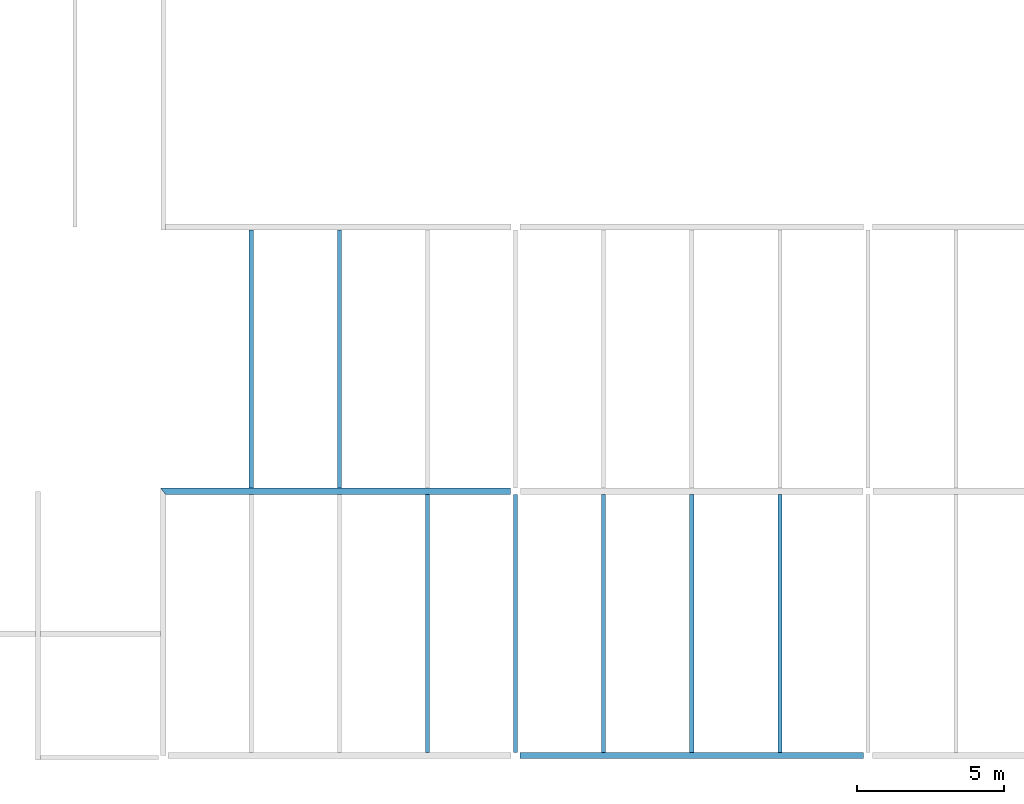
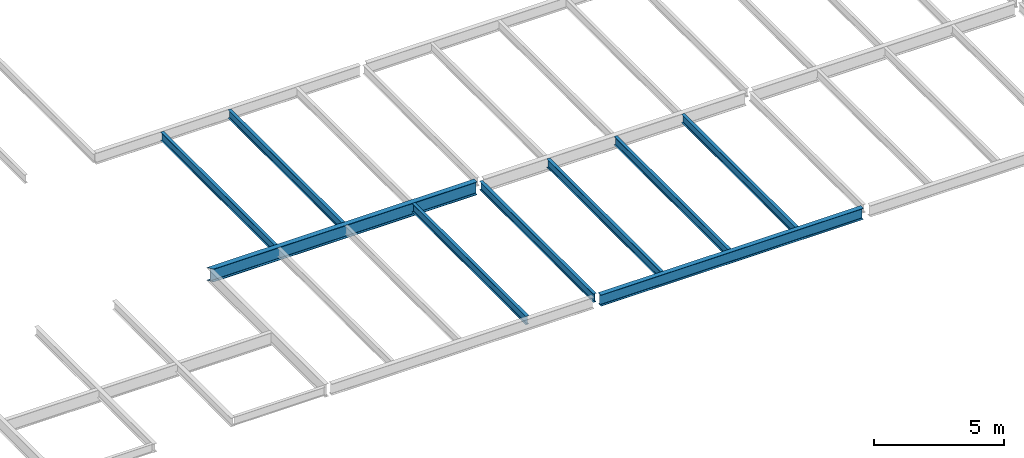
# One storey, part 11 of 21: 9 beams.
"""IFC2X3 building model written with IfcOpenShell, lengths in millimetres."""

from ifc_helpers import new_model, si_unit, origin, place, context, project, spatial, faceted_brep, material, element, save


model = new_model("IFC2X3")

# Units and contexts
context_of_model = context(None, 3, precision=1e-05, world=origin())
ifc_project = project(units=[si_unit("LENGTHUNIT", "METRE", prefix="MILLI")], contexts=[context_of_model])

# Building, storey
building = spatial("IfcBuilding", under=ifc_project, Name="Building", CompositionType="ELEMENT")
storey = spatial("IfcBuildingStorey", under=building, Name="FL3-FRM", CompositionType="ELEMENT")

# Beams
ifc_material_1 = material(Name="A992")
beam_1_placement = place(None, origin())
element("IfcBeam", 1, at=beam_1_placement, inside=storey, material=ifc_material_1, Name="B448", context=context_of_model, shape_type="Brep", body=[
    faceted_brep([(27070.0, 9104.5, 8474.0), (26930.0, 9104.5, 8474.0), (26930.0, 17885.5, 8474.0), (27070.0, 17885.5, 8474.0), (26930.0, 9104.5, 8482.8), (26930.0, 17885.5, 8482.8), (26986.6, 9104.5, 8482.8), (26986.6, 17885.5, 8482.8), (26989.2, 9104.5, 8483.15), (26989.2, 17885.5, 8483.15), (26991.7, 9104.5, 8484.17), (26991.7, 17885.5, 8484.17), (26993.8, 9104.5, 8485.79), (26993.8, 17885.5, 8485.79), (26995.4, 9104.5, 8487.9), (26995.4, 17885.5, 8487.9), (26996.5, 9104.5, 8490.36), (26996.5, 17885.5, 8490.36), (26996.8, 9104.5, 8493.0), (26996.8, 17885.5, 8493.0), (26996.8, 9104.5, 8854.0), (26996.8, 17885.5, 8854.0), (26996.5, 9104.5, 8856.64), (26996.5, 17885.5, 8856.64), (26995.4, 9104.5, 8859.1), (26995.4, 17885.5, 8859.1), (26993.8, 9104.5, 8861.21), (26993.8, 17885.5, 8861.21), (26991.7, 9104.5, 8862.83), (26991.7, 17885.5, 8862.83), (26989.2, 9104.5, 8863.85), (26989.2, 17885.5, 8863.85), (26986.6, 9104.5, 8864.2), (26986.6, 17885.5, 8864.2), (26930.0, 9104.5, 8864.2), (26930.0, 17885.5, 8864.2), (26930.0, 9104.5, 8873.0), (26930.0, 17885.5, 8873.0), (27070.0, 9104.5, 8873.0), (27070.0, 17885.5, 8873.0), (27070.0, 9104.5, 8864.2), (27070.0, 17885.5, 8864.2), (27013.4, 9104.5, 8864.2), (27013.4, 17885.5, 8864.2), (27010.8, 9104.5, 8863.85), (27010.8, 17885.5, 8863.85), (27008.3, 9104.5, 8862.83), (27008.3, 17885.5, 8862.83), (27006.2, 9104.5, 8861.21), (27006.2, 17885.5, 8861.21), (27004.6, 9104.5, 8859.1), (27004.6, 17885.5, 8859.1), (27003.5, 9104.5, 8856.64), (27003.5, 17885.5, 8856.64), (27003.2, 9104.5, 8854.0), (27003.2, 17885.5, 8854.0), (27003.2, 9104.5, 8493.0), (27003.2, 17885.5, 8493.0), (27003.5, 9104.5, 8490.36), (27003.5, 17885.5, 8490.36), (27004.6, 9104.5, 8487.9), (27004.6, 17885.5, 8487.9), (27006.2, 9104.5, 8485.79), (27006.2, 17885.5, 8485.79), (27008.3, 9104.5, 8484.17), (27008.3, 17885.5, 8484.17), (27010.8, 9104.5, 8483.15), (27010.8, 17885.5, 8483.15), (27013.4, 9104.5, 8482.8), (27013.4, 17885.5, 8482.8), (27070.0, 9104.5, 8482.8), (27070.0, 17885.5, 8482.8)], [[[0, 1, 2, 3]], [[1, 4, 5, 2]], [[4, 6, 7, 5]], [[6, 8, 9, 7]], [[8, 10, 11, 9]], [[10, 12, 13, 11]], [[12, 14, 15, 13]], [[14, 16, 17, 15]], [[16, 18, 19, 17]], [[18, 20, 21, 19]], [[20, 22, 23, 21]], [[22, 24, 25, 23]], [[24, 26, 27, 25]], [[26, 28, 29, 27]], [[28, 30, 31, 29]], [[30, 32, 33, 31]], [[32, 34, 35, 33]], [[34, 36, 37, 35]], [[36, 38, 39, 37]], [[38, 40, 41, 39]], [[40, 42, 43, 41]], [[42, 44, 45, 43]], [[44, 46, 47, 45]], [[46, 48, 49, 47]], [[48, 50, 51, 49]], [[50, 52, 53, 51]], [[52, 54, 55, 53]], [[54, 56, 57, 55]], [[56, 58, 59, 57]], [[58, 60, 61, 59]], [[60, 62, 63, 61]], [[62, 64, 65, 63]], [[64, 66, 67, 65]], [[66, 68, 69, 67]], [[68, 70, 71, 69]], [[70, 0, 3, 71]], [[0, 70, 68, 66, 64, 62, 60, 58, 56, 54, 52, 50, 48, 46, 44, 42, 40, 38, 36, 34, 32, 30, 28, 26, 24, 22, 20, 18, 16, 14, 12, 10, 8, 6, 4, 1]], [[3, 2, 5, 7, 9, 11, 13, 15, 17, 19, 21, 23, 25, 27, 29, 31, 33, 35, 37, 39, 41, 43, 45, 47, 49, 51, 53, 55, 57, 59, 61, 63, 65, 67, 69, 71]]]),
])
ifc_material_2 = material(Name="A992")
beam_2_placement = place(None, origin())
element("IfcBeam", 2, at=beam_2_placement, inside=storey, material=ifc_material_2, Name="B449", context=context_of_model, shape_type="Brep", body=[
    faceted_brep([(30070.0, 9104.5, 8474.0), (29930.0, 9104.5, 8474.0), (29930.0, 17885.5, 8474.0), (30070.0, 17885.5, 8474.0), (29930.0, 9104.5, 8482.8), (29930.0, 17885.5, 8482.8), (29986.6, 9104.5, 8482.8), (29986.6, 17885.5, 8482.8), (29989.2, 9104.5, 8483.15), (29989.2, 17885.5, 8483.15), (29991.7, 9104.5, 8484.17), (29991.7, 17885.5, 8484.17), (29993.8, 9104.5, 8485.79), (29993.8, 17885.5, 8485.79), (29995.4, 9104.5, 8487.9), (29995.4, 17885.5, 8487.9), (29996.5, 9104.5, 8490.36), (29996.5, 17885.5, 8490.36), (29996.8, 9104.5, 8493.0), (29996.8, 17885.5, 8493.0), (29996.8, 9104.5, 8854.0), (29996.8, 17885.5, 8854.0), (29996.5, 9104.5, 8856.64), (29996.5, 17885.5, 8856.64), (29995.4, 9104.5, 8859.1), (29995.4, 17885.5, 8859.1), (29993.8, 9104.5, 8861.21), (29993.8, 17885.5, 8861.21), (29991.7, 9104.5, 8862.83), (29991.7, 17885.5, 8862.83), (29989.2, 9104.5, 8863.85), (29989.2, 17885.5, 8863.85), (29986.6, 9104.5, 8864.2), (29986.6, 17885.5, 8864.2), (29930.0, 9104.5, 8864.2), (29930.0, 17885.5, 8864.2), (29930.0, 9104.5, 8873.0), (29930.0, 17885.5, 8873.0), (30070.0, 9104.5, 8873.0), (30070.0, 17885.5, 8873.0), (30070.0, 9104.5, 8864.2), (30070.0, 17885.5, 8864.2), (30013.4, 9104.5, 8864.2), (30013.4, 17885.5, 8864.2), (30010.8, 9104.5, 8863.85), (30010.8, 17885.5, 8863.85), (30008.3, 9104.5, 8862.83), (30008.3, 17885.5, 8862.83), (30006.2, 9104.5, 8861.21), (30006.2, 17885.5, 8861.21), (30004.6, 9104.5, 8859.1), (30004.6, 17885.5, 8859.1), (30003.5, 9104.5, 8856.64), (30003.5, 17885.5, 8856.64), (30003.2, 9104.5, 8854.0), (30003.2, 17885.5, 8854.0), (30003.2, 9104.5, 8493.0), (30003.2, 17885.5, 8493.0), (30003.5, 9104.5, 8490.36), (30003.5, 17885.5, 8490.36), (30004.6, 9104.5, 8487.9), (30004.6, 17885.5, 8487.9), (30006.2, 9104.5, 8485.79), (30006.2, 17885.5, 8485.79), (30008.3, 9104.5, 8484.17), (30008.3, 17885.5, 8484.17), (30010.8, 9104.5, 8483.15), (30010.8, 17885.5, 8483.15), (30013.4, 9104.5, 8482.8), (30013.4, 17885.5, 8482.8), (30070.0, 9104.5, 8482.8), (30070.0, 17885.5, 8482.8)], [[[0, 1, 2, 3]], [[1, 4, 5, 2]], [[4, 6, 7, 5]], [[6, 8, 9, 7]], [[8, 10, 11, 9]], [[10, 12, 13, 11]], [[12, 14, 15, 13]], [[14, 16, 17, 15]], [[16, 18, 19, 17]], [[18, 20, 21, 19]], [[20, 22, 23, 21]], [[22, 24, 25, 23]], [[24, 26, 27, 25]], [[26, 28, 29, 27]], [[28, 30, 31, 29]], [[30, 32, 33, 31]], [[32, 34, 35, 33]], [[34, 36, 37, 35]], [[36, 38, 39, 37]], [[38, 40, 41, 39]], [[40, 42, 43, 41]], [[42, 44, 45, 43]], [[44, 46, 47, 45]], [[46, 48, 49, 47]], [[48, 50, 51, 49]], [[50, 52, 53, 51]], [[52, 54, 55, 53]], [[54, 56, 57, 55]], [[56, 58, 59, 57]], [[58, 60, 61, 59]], [[60, 62, 63, 61]], [[62, 64, 65, 63]], [[64, 66, 67, 65]], [[66, 68, 69, 67]], [[68, 70, 71, 69]], [[70, 0, 3, 71]], [[0, 70, 68, 66, 64, 62, 60, 58, 56, 54, 52, 50, 48, 46, 44, 42, 40, 38, 36, 34, 32, 30, 28, 26, 24, 22, 20, 18, 16, 14, 12, 10, 8, 6, 4, 1]], [[3, 2, 5, 7, 9, 11, 13, 15, 17, 19, 21, 23, 25, 27, 29, 31, 33, 35, 37, 39, 41, 43, 45, 47, 49, 51, 53, 55, 57, 59, 61, 63, 65, 67, 69, 71]]]),
])
ifc_material_3 = material(Name="A992")
beam_3_placement = place(None, origin())
element("IfcBeam", 3, at=beam_3_placement, inside=storey, material=ifc_material_3, Name="B452", context=context_of_model, shape_type="Brep", body=[
    faceted_brep([(33070.0, 9104.5, 8474.0), (32930.0, 9104.5, 8474.0), (32930.0, 17885.5, 8474.0), (33070.0, 17885.5, 8474.0), (32930.0, 9104.5, 8482.8), (32930.0, 17885.5, 8482.8), (32986.6, 9104.5, 8482.8), (32986.6, 17885.5, 8482.8), (32989.2, 9104.5, 8483.15), (32989.2, 17885.5, 8483.15), (32991.7, 9104.5, 8484.17), (32991.7, 17885.5, 8484.17), (32993.8, 9104.5, 8485.79), (32993.8, 17885.5, 8485.79), (32995.4, 9104.5, 8487.9), (32995.4, 17885.5, 8487.9), (32996.5, 9104.5, 8490.36), (32996.5, 17885.5, 8490.36), (32996.8, 9104.5, 8493.0), (32996.8, 17885.5, 8493.0), (32996.8, 9104.5, 8854.0), (32996.8, 17885.5, 8854.0), (32996.5, 9104.5, 8856.64), (32996.5, 17885.5, 8856.64), (32995.4, 9104.5, 8859.1), (32995.4, 17885.5, 8859.1), (32993.8, 9104.5, 8861.21), (32993.8, 17885.5, 8861.21), (32991.7, 9104.5, 8862.83), (32991.7, 17885.5, 8862.83), (32989.2, 9104.5, 8863.85), (32989.2, 17885.5, 8863.85), (32986.6, 9104.5, 8864.2), (32986.6, 17885.5, 8864.2), (32930.0, 9104.5, 8864.2), (32930.0, 17885.5, 8864.2), (32930.0, 9104.5, 8873.0), (32930.0, 17885.5, 8873.0), (33070.0, 9104.5, 8873.0), (33070.0, 17885.5, 8873.0), (33070.0, 9104.5, 8864.2), (33070.0, 17885.5, 8864.2), (33013.4, 9104.5, 8864.2), (33013.4, 17885.5, 8864.2), (33010.8, 9104.5, 8863.85), (33010.8, 17885.5, 8863.85), (33008.3, 9104.5, 8862.83), (33008.3, 17885.5, 8862.83), (33006.2, 9104.5, 8861.21), (33006.2, 17885.5, 8861.21), (33004.6, 9104.5, 8859.1), (33004.6, 17885.5, 8859.1), (33003.5, 9104.5, 8856.64), (33003.5, 17885.5, 8856.64), (33003.2, 9104.5, 8854.0), (33003.2, 17885.5, 8854.0), (33003.2, 9104.5, 8493.0), (33003.2, 17885.5, 8493.0), (33003.5, 9104.5, 8490.36), (33003.5, 17885.5, 8490.36), (33004.6, 9104.5, 8487.9), (33004.6, 17885.5, 8487.9), (33006.2, 9104.5, 8485.79), (33006.2, 17885.5, 8485.79), (33008.3, 9104.5, 8484.17), (33008.3, 17885.5, 8484.17), (33010.8, 9104.5, 8483.15), (33010.8, 17885.5, 8483.15), (33013.4, 9104.5, 8482.8), (33013.4, 17885.5, 8482.8), (33070.0, 9104.5, 8482.8), (33070.0, 17885.5, 8482.8)], [[[0, 1, 2, 3]], [[1, 4, 5, 2]], [[4, 6, 7, 5]], [[6, 8, 9, 7]], [[8, 10, 11, 9]], [[10, 12, 13, 11]], [[12, 14, 15, 13]], [[14, 16, 17, 15]], [[16, 18, 19, 17]], [[18, 20, 21, 19]], [[20, 22, 23, 21]], [[22, 24, 25, 23]], [[24, 26, 27, 25]], [[26, 28, 29, 27]], [[28, 30, 31, 29]], [[30, 32, 33, 31]], [[32, 34, 35, 33]], [[34, 36, 37, 35]], [[36, 38, 39, 37]], [[38, 40, 41, 39]], [[40, 42, 43, 41]], [[42, 44, 45, 43]], [[44, 46, 47, 45]], [[46, 48, 49, 47]], [[48, 50, 51, 49]], [[50, 52, 53, 51]], [[52, 54, 55, 53]], [[54, 56, 57, 55]], [[56, 58, 59, 57]], [[58, 60, 61, 59]], [[60, 62, 63, 61]], [[62, 64, 65, 63]], [[64, 66, 67, 65]], [[66, 68, 69, 67]], [[68, 70, 71, 69]], [[70, 0, 3, 71]], [[0, 70, 68, 66, 64, 62, 60, 58, 56, 54, 52, 50, 48, 46, 44, 42, 40, 38, 36, 34, 32, 30, 28, 26, 24, 22, 20, 18, 16, 14, 12, 10, 8, 6, 4, 1]], [[3, 2, 5, 7, 9, 11, 13, 15, 17, 19, 21, 23, 25, 27, 29, 31, 33, 35, 37, 39, 41, 43, 45, 47, 49, 51, 53, 55, 57, 59, 61, 63, 65, 67, 69, 71]]]),
])
ifc_material_4 = material(Name="A992")
beam_4_placement = place(None, origin())
element("IfcBeam", 4, at=beam_4_placement, inside=storey, material=ifc_material_4, Name="B453", context=context_of_model, shape_type="Brep", body=[
    faceted_brep([(24070.0, 9104.5, 8474.0), (23930.0, 9104.5, 8474.0), (23930.0, 17885.5, 8474.0), (24070.0, 17885.5, 8474.0), (23930.0, 9104.5, 8482.8), (23930.0, 17885.5, 8482.8), (23986.6, 9104.5, 8482.8), (23986.6, 17885.5, 8482.8), (23989.2, 9104.5, 8483.15), (23989.2, 17885.5, 8483.15), (23991.7, 9104.5, 8484.17), (23991.7, 17885.5, 8484.17), (23993.8, 9104.5, 8485.79), (23993.8, 17885.5, 8485.79), (23995.4, 9104.5, 8487.9), (23995.4, 17885.5, 8487.9), (23996.5, 9104.5, 8490.36), (23996.5, 17885.5, 8490.36), (23996.8, 9104.5, 8493.0), (23996.8, 17885.5, 8493.0), (23996.8, 9104.5, 8854.0), (23996.8, 17885.5, 8854.0), (23996.5, 9104.5, 8856.64), (23996.5, 17885.5, 8856.64), (23995.4, 9104.5, 8859.1), (23995.4, 17885.5, 8859.1), (23993.8, 9104.5, 8861.21), (23993.8, 17885.5, 8861.21), (23991.7, 9104.5, 8862.83), (23991.7, 17885.5, 8862.83), (23989.2, 9104.5, 8863.85), (23989.2, 17885.5, 8863.85), (23986.6, 9104.5, 8864.2), (23986.6, 17885.5, 8864.2), (23930.0, 9104.5, 8864.2), (23930.0, 17885.5, 8864.2), (23930.0, 9104.5, 8873.0), (23930.0, 17885.5, 8873.0), (24070.0, 9104.5, 8873.0), (24070.0, 17885.5, 8873.0), (24070.0, 9104.5, 8864.2), (24070.0, 17885.5, 8864.2), (24013.4, 9104.5, 8864.2), (24013.4, 17885.5, 8864.2), (24010.8, 9104.5, 8863.85), (24010.8, 17885.5, 8863.85), (24008.3, 9104.5, 8862.83), (24008.3, 17885.5, 8862.83), (24006.2, 9104.5, 8861.21), (24006.2, 17885.5, 8861.21), (24004.6, 9104.5, 8859.1), (24004.6, 17885.5, 8859.1), (24003.5, 9104.5, 8856.64), (24003.5, 17885.5, 8856.64), (24003.2, 9104.5, 8854.0), (24003.2, 17885.5, 8854.0), (24003.2, 9104.5, 8493.0), (24003.2, 17885.5, 8493.0), (24003.5, 9104.5, 8490.36), (24003.5, 17885.5, 8490.36), (24004.6, 9104.5, 8487.9), (24004.6, 17885.5, 8487.9), (24006.2, 9104.5, 8485.79), (24006.2, 17885.5, 8485.79), (24008.3, 9104.5, 8484.17), (24008.3, 17885.5, 8484.17), (24010.8, 9104.5, 8483.15), (24010.8, 17885.5, 8483.15), (24013.4, 9104.5, 8482.8), (24013.4, 17885.5, 8482.8), (24070.0, 9104.5, 8482.8), (24070.0, 17885.5, 8482.8)], [[[0, 1, 2, 3]], [[1, 4, 5, 2]], [[4, 6, 7, 5]], [[6, 8, 9, 7]], [[8, 10, 11, 9]], [[10, 12, 13, 11]], [[12, 14, 15, 13]], [[14, 16, 17, 15]], [[16, 18, 19, 17]], [[18, 20, 21, 19]], [[20, 22, 23, 21]], [[22, 24, 25, 23]], [[24, 26, 27, 25]], [[26, 28, 29, 27]], [[28, 30, 31, 29]], [[30, 32, 33, 31]], [[32, 34, 35, 33]], [[34, 36, 37, 35]], [[36, 38, 39, 37]], [[38, 40, 41, 39]], [[40, 42, 43, 41]], [[42, 44, 45, 43]], [[44, 46, 47, 45]], [[46, 48, 49, 47]], [[48, 50, 51, 49]], [[50, 52, 53, 51]], [[52, 54, 55, 53]], [[54, 56, 57, 55]], [[56, 58, 59, 57]], [[58, 60, 61, 59]], [[60, 62, 63, 61]], [[62, 64, 65, 63]], [[64, 66, 67, 65]], [[66, 68, 69, 67]], [[68, 70, 71, 69]], [[70, 0, 3, 71]], [[0, 70, 68, 66, 64, 62, 60, 58, 56, 54, 52, 50, 48, 46, 44, 42, 40, 38, 36, 34, 32, 30, 28, 26, 24, 22, 20, 18, 16, 14, 12, 10, 8, 6, 4, 1]], [[3, 2, 5, 7, 9, 11, 13, 15, 17, 19, 21, 23, 25, 27, 29, 31, 33, 35, 37, 39, 41, 43, 45, 47, 49, 51, 53, 55, 57, 59, 61, 63, 65, 67, 69, 71]]]),
])
ifc_material_5 = material(Name="A992")
beam_5_placement = place(None, origin())
element("IfcBeam", 5, at=beam_5_placement, inside=storey, material=ifc_material_5, Name="Column471", context=context_of_model, shape_type="Brep", body=[
    faceted_brep([(24154.0, 8895.5, 8345.0), (24154.0, 9104.5, 8345.0), (35846.0, 9104.5, 8345.0), (35846.0, 8895.5, 8345.0), (24154.0, 9104.5, 8358.3), (35846.0, 9104.5, 8358.3), (24154.0, 9017.45, 8358.3), (35846.0, 9017.45, 8358.3), (24154.0, 9014.16, 8358.73), (35846.0, 9014.16, 8358.73), (24154.0, 9011.1, 8360.0), (35846.0, 9011.1, 8360.0), (24154.0, 9008.47, 8362.02), (35846.0, 9008.47, 8362.02), (24154.0, 9006.45, 8364.65), (35846.0, 9006.45, 8364.65), (24154.0, 9005.18, 8367.71), (35846.0, 9005.18, 8367.71), (24154.0, 9004.75, 8371.0), (35846.0, 9004.75, 8371.0), (24154.0, 9004.75, 8847.0), (35846.0, 9004.75, 8847.0), (24154.0, 9005.18, 8850.29), (35846.0, 9005.18, 8850.29), (24154.0, 9006.45, 8853.35), (35846.0, 9006.45, 8853.35), (24154.0, 9008.47, 8855.98), (35846.0, 9008.47, 8855.98), (24154.0, 9011.1, 8858.0), (35846.0, 9011.1, 8858.0), (24154.0, 9014.16, 8859.27), (35846.0, 9014.16, 8859.27), (24154.0, 9017.45, 8859.7), (35846.0, 9017.45, 8859.7), (24154.0, 9104.5, 8859.7), (35846.0, 9104.5, 8859.7), (24154.0, 9104.5, 8873.0), (35846.0, 9104.5, 8873.0), (24154.0, 8895.5, 8873.0), (35846.0, 8895.5, 8873.0), (24154.0, 8895.5, 8859.7), (35846.0, 8895.5, 8859.7), (24154.0, 8982.55, 8859.7), (35846.0, 8982.55, 8859.7), (24154.0, 8985.84, 8859.27), (35846.0, 8985.84, 8859.27), (24154.0, 8988.9, 8858.0), (35846.0, 8988.9, 8858.0), (24154.0, 8991.53, 8855.98), (35846.0, 8991.53, 8855.98), (24154.0, 8993.55, 8853.35), (35846.0, 8993.55, 8853.35), (24154.0, 8994.82, 8850.29), (35846.0, 8994.82, 8850.29), (24154.0, 8995.25, 8847.0), (35846.0, 8995.25, 8847.0), (24154.0, 8995.25, 8371.0), (35846.0, 8995.25, 8371.0), (24154.0, 8994.82, 8367.71), (35846.0, 8994.82, 8367.71), (24154.0, 8993.55, 8364.65), (35846.0, 8993.55, 8364.65), (24154.0, 8991.53, 8362.02), (35846.0, 8991.53, 8362.02), (24154.0, 8988.9, 8360.0), (35846.0, 8988.9, 8360.0), (24154.0, 8985.84, 8358.73), (35846.0, 8985.84, 8358.73), (24154.0, 8982.55, 8358.3), (35846.0, 8982.55, 8358.3), (24154.0, 8895.5, 8358.3), (35846.0, 8895.5, 8358.3)], [[[0, 1, 2, 3]], [[1, 4, 5, 2]], [[4, 6, 7, 5]], [[6, 8, 9, 7]], [[8, 10, 11, 9]], [[10, 12, 13, 11]], [[12, 14, 15, 13]], [[14, 16, 17, 15]], [[16, 18, 19, 17]], [[18, 20, 21, 19]], [[20, 22, 23, 21]], [[22, 24, 25, 23]], [[24, 26, 27, 25]], [[26, 28, 29, 27]], [[28, 30, 31, 29]], [[30, 32, 33, 31]], [[32, 34, 35, 33]], [[34, 36, 37, 35]], [[36, 38, 39, 37]], [[38, 40, 41, 39]], [[40, 42, 43, 41]], [[42, 44, 45, 43]], [[44, 46, 47, 45]], [[46, 48, 49, 47]], [[48, 50, 51, 49]], [[50, 52, 53, 51]], [[52, 54, 55, 53]], [[54, 56, 57, 55]], [[56, 58, 59, 57]], [[58, 60, 61, 59]], [[60, 62, 63, 61]], [[62, 64, 65, 63]], [[64, 66, 67, 65]], [[66, 68, 69, 67]], [[68, 70, 71, 69]], [[70, 0, 3, 71]], [[0, 70, 68, 66, 64, 62, 60, 58, 56, 54, 52, 50, 48, 46, 44, 42, 40, 38, 36, 34, 32, 30, 28, 26, 24, 22, 20, 18, 16, 14, 12, 10, 8, 6, 4, 1]], [[3, 2, 5, 7, 9, 11, 13, 15, 17, 19, 21, 23, 25, 27, 29, 31, 33, 35, 37, 39, 41, 43, 45, 47, 49, 51, 53, 55, 57, 59, 61, 63, 65, 67, 69, 71]]]),
])
ifc_material_6 = material(Name="A992")
beam_6_placement = place(None, origin())
element("IfcBeam", 6, at=beam_6_placement, inside=storey, material=ifc_material_6, Name="B456", context=context_of_model, shape_type="Brep", body=[
    faceted_brep([(17930.0, 26895.5, 8474.0), (18070.0, 26895.5, 8474.0), (18070.0, 18114.5, 8474.0), (17930.0, 18114.5, 8474.0), (18070.0, 26895.5, 8482.8), (18070.0, 18114.5, 8482.8), (18013.4, 26895.5, 8482.8), (18013.4, 18114.5, 8482.8), (18010.8, 26895.5, 8483.15), (18010.8, 18114.5, 8483.15), (18008.3, 26895.5, 8484.17), (18008.3, 18114.5, 8484.17), (18006.2, 26895.5, 8485.79), (18006.2, 18114.5, 8485.79), (18004.6, 26895.5, 8487.9), (18004.6, 18114.5, 8487.9), (18003.5, 26895.5, 8490.36), (18003.5, 18114.5, 8490.36), (18003.2, 26895.5, 8493.0), (18003.2, 18114.5, 8493.0), (18003.2, 26895.5, 8854.0), (18003.2, 18114.5, 8854.0), (18003.5, 26895.5, 8856.64), (18003.5, 18114.5, 8856.64), (18004.6, 26895.5, 8859.1), (18004.6, 18114.5, 8859.1), (18006.2, 26895.5, 8861.21), (18006.2, 18114.5, 8861.21), (18008.3, 26895.5, 8862.83), (18008.3, 18114.5, 8862.83), (18010.8, 26895.5, 8863.85), (18010.8, 18114.5, 8863.85), (18013.4, 26895.5, 8864.2), (18013.4, 18114.5, 8864.2), (18070.0, 26895.5, 8864.2), (18070.0, 18114.5, 8864.2), (18070.0, 26895.5, 8873.0), (18070.0, 18114.5, 8873.0), (17930.0, 26895.5, 8873.0), (17930.0, 18114.5, 8873.0), (17930.0, 26895.5, 8864.2), (17930.0, 18114.5, 8864.2), (17986.6, 26895.5, 8864.2), (17986.6, 18114.5, 8864.2), (17989.2, 26895.5, 8863.85), (17989.2, 18114.5, 8863.85), (17991.7, 26895.5, 8862.83), (17991.7, 18114.5, 8862.83), (17993.8, 26895.5, 8861.21), (17993.8, 18114.5, 8861.21), (17995.4, 26895.5, 8859.1), (17995.4, 18114.5, 8859.1), (17996.5, 26895.5, 8856.64), (17996.5, 18114.5, 8856.64), (17996.8, 26895.5, 8854.0), (17996.8, 18114.5, 8854.0), (17996.8, 26895.5, 8493.0), (17996.8, 18114.5, 8493.0), (17996.5, 26895.5, 8490.36), (17996.5, 18114.5, 8490.36), (17995.4, 26895.5, 8487.9), (17995.4, 18114.5, 8487.9), (17993.8, 26895.5, 8485.79), (17993.8, 18114.5, 8485.79), (17991.7, 26895.5, 8484.17), (17991.7, 18114.5, 8484.17), (17989.2, 26895.5, 8483.15), (17989.2, 18114.5, 8483.15), (17986.6, 26895.5, 8482.8), (17986.6, 18114.5, 8482.8), (17930.0, 26895.5, 8482.8), (17930.0, 18114.5, 8482.8)], [[[0, 1, 2, 3]], [[1, 4, 5, 2]], [[4, 6, 7, 5]], [[6, 8, 9, 7]], [[8, 10, 11, 9]], [[10, 12, 13, 11]], [[12, 14, 15, 13]], [[14, 16, 17, 15]], [[16, 18, 19, 17]], [[18, 20, 21, 19]], [[20, 22, 23, 21]], [[22, 24, 25, 23]], [[24, 26, 27, 25]], [[26, 28, 29, 27]], [[28, 30, 31, 29]], [[30, 32, 33, 31]], [[32, 34, 35, 33]], [[34, 36, 37, 35]], [[36, 38, 39, 37]], [[38, 40, 41, 39]], [[40, 42, 43, 41]], [[42, 44, 45, 43]], [[44, 46, 47, 45]], [[46, 48, 49, 47]], [[48, 50, 51, 49]], [[50, 52, 53, 51]], [[52, 54, 55, 53]], [[54, 56, 57, 55]], [[56, 58, 59, 57]], [[58, 60, 61, 59]], [[60, 62, 63, 61]], [[62, 64, 65, 63]], [[64, 66, 67, 65]], [[66, 68, 69, 67]], [[68, 70, 71, 69]], [[70, 0, 3, 71]], [[0, 70, 68, 66, 64, 62, 60, 58, 56, 54, 52, 50, 48, 46, 44, 42, 40, 38, 36, 34, 32, 30, 28, 26, 24, 22, 20, 18, 16, 14, 12, 10, 8, 6, 4, 1]], [[3, 2, 5, 7, 9, 11, 13, 15, 17, 19, 21, 23, 25, 27, 29, 31, 33, 35, 37, 39, 41, 43, 45, 47, 49, 51, 53, 55, 57, 59, 61, 63, 65, 67, 69, 71]]]),
])
ifc_material_7 = material(Name="A992")
beam_7_placement = place(None, origin())
element("IfcBeam", 7, at=beam_7_placement, inside=storey, material=ifc_material_7, Name="B461", context=context_of_model, shape_type="Brep", body=[
    faceted_brep([(21070.0, 9104.5, 8474.0), (20930.0, 9104.5, 8474.0), (20930.0, 17885.5, 8474.0), (21070.0, 17885.5, 8474.0), (20930.0, 9104.5, 8482.8), (20930.0, 17885.5, 8482.8), (20986.6, 9104.5, 8482.8), (20986.6, 17885.5, 8482.8), (20989.2, 9104.5, 8483.15), (20989.2, 17885.5, 8483.15), (20991.7, 9104.5, 8484.17), (20991.7, 17885.5, 8484.17), (20993.8, 9104.5, 8485.79), (20993.8, 17885.5, 8485.79), (20995.4, 9104.5, 8487.9), (20995.4, 17885.5, 8487.9), (20996.5, 9104.5, 8490.36), (20996.5, 17885.5, 8490.36), (20996.8, 9104.5, 8493.0), (20996.8, 17885.5, 8493.0), (20996.8, 9104.5, 8854.0), (20996.8, 17885.5, 8854.0), (20996.5, 9104.5, 8856.64), (20996.5, 17885.5, 8856.64), (20995.4, 9104.5, 8859.1), (20995.4, 17885.5, 8859.1), (20993.8, 9104.5, 8861.21), (20993.8, 17885.5, 8861.21), (20991.7, 9104.5, 8862.83), (20991.7, 17885.5, 8862.83), (20989.2, 9104.5, 8863.85), (20989.2, 17885.5, 8863.85), (20986.6, 9104.5, 8864.2), (20986.6, 17885.5, 8864.2), (20930.0, 9104.5, 8864.2), (20930.0, 17885.5, 8864.2), (20930.0, 9104.5, 8873.0), (20930.0, 17885.5, 8873.0), (21070.0, 9104.5, 8873.0), (21070.0, 17885.5, 8873.0), (21070.0, 9104.5, 8864.2), (21070.0, 17885.5, 8864.2), (21013.4, 9104.5, 8864.2), (21013.4, 17885.5, 8864.2), (21010.8, 9104.5, 8863.85), (21010.8, 17885.5, 8863.85), (21008.3, 9104.5, 8862.83), (21008.3, 17885.5, 8862.83), (21006.2, 9104.5, 8861.21), (21006.2, 17885.5, 8861.21), (21004.6, 9104.5, 8859.1), (21004.6, 17885.5, 8859.1), (21003.5, 9104.5, 8856.64), (21003.5, 17885.5, 8856.64), (21003.2, 9104.5, 8854.0), (21003.2, 17885.5, 8854.0), (21003.2, 9104.5, 8493.0), (21003.2, 17885.5, 8493.0), (21003.5, 9104.5, 8490.36), (21003.5, 17885.5, 8490.36), (21004.6, 9104.5, 8487.9), (21004.6, 17885.5, 8487.9), (21006.2, 9104.5, 8485.79), (21006.2, 17885.5, 8485.79), (21008.3, 9104.5, 8484.17), (21008.3, 17885.5, 8484.17), (21010.8, 9104.5, 8483.15), (21010.8, 17885.5, 8483.15), (21013.4, 9104.5, 8482.8), (21013.4, 17885.5, 8482.8), (21070.0, 9104.5, 8482.8), (21070.0, 17885.5, 8482.8)], [[[0, 1, 2, 3]], [[1, 4, 5, 2]], [[4, 6, 7, 5]], [[6, 8, 9, 7]], [[8, 10, 11, 9]], [[10, 12, 13, 11]], [[12, 14, 15, 13]], [[14, 16, 17, 15]], [[16, 18, 19, 17]], [[18, 20, 21, 19]], [[20, 22, 23, 21]], [[22, 24, 25, 23]], [[24, 26, 27, 25]], [[26, 28, 29, 27]], [[28, 30, 31, 29]], [[30, 32, 33, 31]], [[32, 34, 35, 33]], [[34, 36, 37, 35]], [[36, 38, 39, 37]], [[38, 40, 41, 39]], [[40, 42, 43, 41]], [[42, 44, 45, 43]], [[44, 46, 47, 45]], [[46, 48, 49, 47]], [[48, 50, 51, 49]], [[50, 52, 53, 51]], [[52, 54, 55, 53]], [[54, 56, 57, 55]], [[56, 58, 59, 57]], [[58, 60, 61, 59]], [[60, 62, 63, 61]], [[62, 64, 65, 63]], [[64, 66, 67, 65]], [[66, 68, 69, 67]], [[68, 70, 71, 69]], [[70, 0, 3, 71]], [[0, 70, 68, 66, 64, 62, 60, 58, 56, 54, 52, 50, 48, 46, 44, 42, 40, 38, 36, 34, 32, 30, 28, 26, 24, 22, 20, 18, 16, 14, 12, 10, 8, 6, 4, 1]], [[3, 2, 5, 7, 9, 11, 13, 15, 17, 19, 21, 23, 25, 27, 29, 31, 33, 35, 37, 39, 41, 43, 45, 47, 49, 51, 53, 55, 57, 59, 61, 63, 65, 67, 69, 71]]]),
])
ifc_material_8 = material(Name="A992")
beam_8_placement = place(None, origin())
element("IfcBeam", 8, at=beam_8_placement, inside=storey, material=ifc_material_8, Name="Column472", context=context_of_model, shape_type="Brep", body=[
    faceted_brep([(12089.5, 17885.5, 8261.0), (11910.5, 18114.5, 8261.0), (23833.5, 18114.5, 8261.0), (23833.5, 17885.5, 8261.0), (11910.5, 18114.5, 8280.6), (23833.5, 18114.5, 8280.6), (11985.4, 18018.6, 8280.6), (23833.5, 18018.6, 8280.6), (11986.8, 18016.9, 8280.71), (23833.5, 18016.8, 8280.73), (11988.2, 18015.1, 8281.1), (23833.5, 18015.1, 8281.11), (11989.5, 18013.4, 8281.74), (23833.5, 18013.4, 8281.75), (11990.8, 18011.8, 8282.59), (23833.5, 18011.8, 8282.62), (11991.9, 18010.4, 8283.67), (23833.5, 18010.3, 8283.7), (11992.9, 18009.1, 8284.97), (23833.5, 18009.1, 8284.98), (11993.8, 18008.0, 8286.39), (23833.5, 18008.0, 8286.43), (11994.4, 18007.1, 8288.0), (23833.5, 18007.1, 8288.02), (11994.9, 18006.5, 8289.7), (23833.5, 18006.5, 8289.72), (11995.2, 18006.1, 8291.48), (23833.5, 18006.1, 8291.49), (11995.3, 18005.9, 8293.3), (23833.5, 18005.9, 8293.3), (11995.3, 18005.9, 8840.7), (23833.5, 18005.9, 8840.7), (11995.2, 18006.1, 8842.52), (23833.5, 18006.1, 8842.51), (11994.9, 18006.5, 8844.3), (23833.5, 18006.5, 8844.28), (11994.4, 18007.1, 8846.0), (23833.5, 18007.1, 8845.98), (11993.8, 18008.0, 8847.61), (23833.5, 18008.0, 8847.57), (11992.9, 18009.1, 8849.03), (23833.5, 18009.1, 8849.02), (11991.9, 18010.4, 8850.33), (23833.5, 18010.3, 8850.3), (11990.8, 18011.8, 8851.41), (23833.5, 18011.8, 8851.38), (11989.5, 18013.4, 8852.26), (23833.5, 18013.4, 8852.25), (11988.2, 18015.1, 8852.9), (23833.5, 18015.1, 8852.89), (11986.8, 18016.9, 8853.29), (23833.5, 18016.8, 8853.27), (11985.4, 18018.6, 8853.4), (23833.5, 18018.6, 8853.4), (11910.5, 18114.5, 8853.4), (23833.5, 18114.5, 8853.4), (11910.5, 18114.5, 8873.0), (23833.5, 18114.5, 8873.0), (12089.5, 17885.5, 8873.0), (23833.5, 17885.5, 8873.0), (12089.5, 17885.5, 8853.4), (23833.5, 17885.5, 8853.4), (12014.6, 17981.4, 8853.4), (23833.5, 17981.4, 8853.4), (12013.2, 17983.1, 8853.29), (23833.5, 17983.2, 8853.27), (12011.8, 17984.9, 8852.9), (23833.5, 17984.9, 8852.89), (12010.5, 17986.6, 8852.26), (23833.5, 17986.6, 8852.25), (12009.2, 17988.2, 8851.41), (23833.5, 17988.2, 8851.38), (12008.1, 17989.6, 8850.33), (23833.5, 17989.7, 8850.3), (12007.1, 17990.9, 8849.03), (23833.5, 17990.9, 8849.02), (12006.2, 17992.0, 8847.61), (23833.5, 17992.0, 8847.57), (12005.6, 17992.9, 8846.0), (23833.5, 17992.9, 8845.98), (12005.1, 17993.5, 8844.3), (23833.5, 17993.5, 8844.28), (12004.8, 17993.9, 8842.52), (23833.5, 17993.9, 8842.51), (12004.7, 17994.1, 8840.7), (23833.5, 17994.1, 8840.7), (12004.7, 17994.1, 8293.3), (23833.5, 17994.1, 8293.3), (12004.8, 17993.9, 8291.48), (23833.5, 17993.9, 8291.49), (12005.1, 17993.5, 8289.7), (23833.5, 17993.5, 8289.72), (12005.6, 17992.9, 8288.0), (23833.5, 17992.9, 8288.02), (12006.2, 17992.0, 8286.39), (23833.5, 17992.0, 8286.43), (12007.1, 17990.9, 8284.97), (23833.5, 17990.9, 8284.98), (12008.1, 17989.6, 8283.67), (23833.5, 17989.7, 8283.7), (12009.2, 17988.2, 8282.59), (23833.5, 17988.2, 8282.62), (12010.5, 17986.6, 8281.74), (23833.5, 17986.6, 8281.75), (12011.8, 17984.9, 8281.1), (23833.5, 17984.9, 8281.11), (12013.2, 17983.1, 8280.71), (23833.5, 17983.2, 8280.73), (12014.6, 17981.4, 8280.6), (23833.5, 17981.4, 8280.6), (12089.5, 17885.5, 8280.6), (23833.5, 17885.5, 8280.6)], [[[0, 1, 2, 3]], [[1, 4, 5, 2]], [[4, 6, 7, 5]], [[6, 8, 9, 7]], [[8, 10, 11, 9]], [[10, 12, 13, 11]], [[12, 14, 15, 13]], [[14, 16, 17, 15]], [[16, 18, 19, 17]], [[18, 20, 21, 19]], [[20, 22, 23, 21]], [[22, 24, 25, 23]], [[24, 26, 27, 25]], [[26, 28, 29, 27]], [[28, 30, 31, 29]], [[30, 32, 33, 31]], [[32, 34, 35, 33]], [[34, 36, 37, 35]], [[36, 38, 39, 37]], [[38, 40, 41, 39]], [[40, 42, 43, 41]], [[42, 44, 45, 43]], [[44, 46, 47, 45]], [[46, 48, 49, 47]], [[48, 50, 51, 49]], [[50, 52, 53, 51]], [[52, 54, 55, 53]], [[54, 56, 57, 55]], [[56, 58, 59, 57]], [[58, 60, 61, 59]], [[60, 62, 63, 61]], [[62, 64, 65, 63]], [[64, 66, 67, 65]], [[66, 68, 69, 67]], [[68, 70, 71, 69]], [[70, 72, 73, 71]], [[72, 74, 75, 73]], [[74, 76, 77, 75]], [[76, 78, 79, 77]], [[78, 80, 81, 79]], [[80, 82, 83, 81]], [[82, 84, 85, 83]], [[84, 86, 87, 85]], [[86, 88, 89, 87]], [[88, 90, 91, 89]], [[90, 92, 93, 91]], [[92, 94, 95, 93]], [[94, 96, 97, 95]], [[96, 98, 99, 97]], [[98, 100, 101, 99]], [[100, 102, 103, 101]], [[102, 104, 105, 103]], [[104, 106, 107, 105]], [[106, 108, 109, 107]], [[108, 110, 111, 109]], [[110, 0, 3, 111]], [[0, 110, 108, 106, 104, 102, 100, 98, 96, 94, 92, 90, 88, 86, 84, 82, 80, 78, 76, 74, 72, 70, 68, 66, 64, 62, 60, 58, 56, 54, 52, 50, 48, 46, 44, 42, 40, 38, 36, 34, 32, 30, 28, 26, 24, 22, 20, 18, 16, 14, 12, 10, 8, 6, 4, 1]], [[3, 2, 5, 7, 9, 11, 13, 15, 17, 19, 21, 23, 25, 27, 29, 31, 33, 35, 37, 39, 41, 43, 45, 47, 49, 51, 53, 55, 57, 59, 61, 63, 65, 67, 69, 71, 73, 75, 77, 79, 81, 83, 85, 87, 89, 91, 93, 95, 97, 99, 101, 103, 105, 107, 109, 111]]]),
])
ifc_material_9 = material(Name="A992")
beam_9_placement = place(None, origin())
element("IfcBeam", 9, at=beam_9_placement, inside=storey, material=ifc_material_9, Name="B1222", context=context_of_model, shape_type="Brep", body=[
    faceted_brep([(14930.0, 26895.5, 8474.0), (15070.0, 26895.5, 8474.0), (15070.0, 18114.5, 8474.0), (14930.0, 18114.5, 8474.0), (15070.0, 26895.5, 8482.8), (15070.0, 18114.5, 8482.8), (15013.4, 26895.5, 8482.8), (15013.4, 18114.5, 8482.8), (15010.8, 26895.5, 8483.15), (15010.8, 18114.5, 8483.15), (15008.3, 26895.5, 8484.17), (15008.3, 18114.5, 8484.17), (15006.2, 26895.5, 8485.79), (15006.2, 18114.5, 8485.79), (15004.6, 26895.5, 8487.9), (15004.6, 18114.5, 8487.9), (15003.5, 26895.5, 8490.36), (15003.5, 18114.5, 8490.36), (15003.2, 26895.5, 8493.0), (15003.2, 18114.5, 8493.0), (15003.2, 26895.5, 8854.0), (15003.2, 18114.5, 8854.0), (15003.5, 26895.5, 8856.64), (15003.5, 18114.5, 8856.64), (15004.6, 26895.5, 8859.1), (15004.6, 18114.5, 8859.1), (15006.2, 26895.5, 8861.21), (15006.2, 18114.5, 8861.21), (15008.3, 26895.5, 8862.83), (15008.3, 18114.5, 8862.83), (15010.8, 26895.5, 8863.85), (15010.8, 18114.5, 8863.85), (15013.4, 26895.5, 8864.2), (15013.4, 18114.5, 8864.2), (15070.0, 26895.5, 8864.2), (15070.0, 18114.5, 8864.2), (15070.0, 26895.5, 8873.0), (15070.0, 18114.5, 8873.0), (14930.0, 26895.5, 8873.0), (14930.0, 18114.5, 8873.0), (14930.0, 26895.5, 8864.2), (14930.0, 18114.5, 8864.2), (14986.6, 26895.5, 8864.2), (14986.6, 18114.5, 8864.2), (14989.2, 26895.5, 8863.85), (14989.2, 18114.5, 8863.85), (14991.7, 26895.5, 8862.83), (14991.7, 18114.5, 8862.83), (14993.8, 26895.5, 8861.21), (14993.8, 18114.5, 8861.21), (14995.4, 26895.5, 8859.1), (14995.4, 18114.5, 8859.1), (14996.5, 26895.5, 8856.64), (14996.5, 18114.5, 8856.64), (14996.8, 26895.5, 8854.0), (14996.8, 18114.5, 8854.0), (14996.8, 26895.5, 8493.0), (14996.8, 18114.5, 8493.0), (14996.5, 26895.5, 8490.36), (14996.5, 18114.5, 8490.36), (14995.4, 26895.5, 8487.9), (14995.4, 18114.5, 8487.9), (14993.8, 26895.5, 8485.79), (14993.8, 18114.5, 8485.79), (14991.7, 26895.5, 8484.17), (14991.7, 18114.5, 8484.17), (14989.2, 26895.5, 8483.15), (14989.2, 18114.5, 8483.15), (14986.6, 26895.5, 8482.8), (14986.6, 18114.5, 8482.8), (14930.0, 26895.5, 8482.8), (14930.0, 18114.5, 8482.8)], [[[0, 1, 2, 3]], [[1, 4, 5, 2]], [[4, 6, 7, 5]], [[6, 8, 9, 7]], [[8, 10, 11, 9]], [[10, 12, 13, 11]], [[12, 14, 15, 13]], [[14, 16, 17, 15]], [[16, 18, 19, 17]], [[18, 20, 21, 19]], [[20, 22, 23, 21]], [[22, 24, 25, 23]], [[24, 26, 27, 25]], [[26, 28, 29, 27]], [[28, 30, 31, 29]], [[30, 32, 33, 31]], [[32, 34, 35, 33]], [[34, 36, 37, 35]], [[36, 38, 39, 37]], [[38, 40, 41, 39]], [[40, 42, 43, 41]], [[42, 44, 45, 43]], [[44, 46, 47, 45]], [[46, 48, 49, 47]], [[48, 50, 51, 49]], [[50, 52, 53, 51]], [[52, 54, 55, 53]], [[54, 56, 57, 55]], [[56, 58, 59, 57]], [[58, 60, 61, 59]], [[60, 62, 63, 61]], [[62, 64, 65, 63]], [[64, 66, 67, 65]], [[66, 68, 69, 67]], [[68, 70, 71, 69]], [[70, 0, 3, 71]], [[0, 70, 68, 66, 64, 62, 60, 58, 56, 54, 52, 50, 48, 46, 44, 42, 40, 38, 36, 34, 32, 30, 28, 26, 24, 22, 20, 18, 16, 14, 12, 10, 8, 6, 4, 1]], [[3, 2, 5, 7, 9, 11, 13, 15, 17, 19, 21, 23, 25, 27, 29, 31, 33, 35, 37, 39, 41, 43, 45, 47, 49, 51, 53, 55, 57, 59, 61, 63, 65, 67, 69, 71]]]),
])

save(model, "model.ifc")
